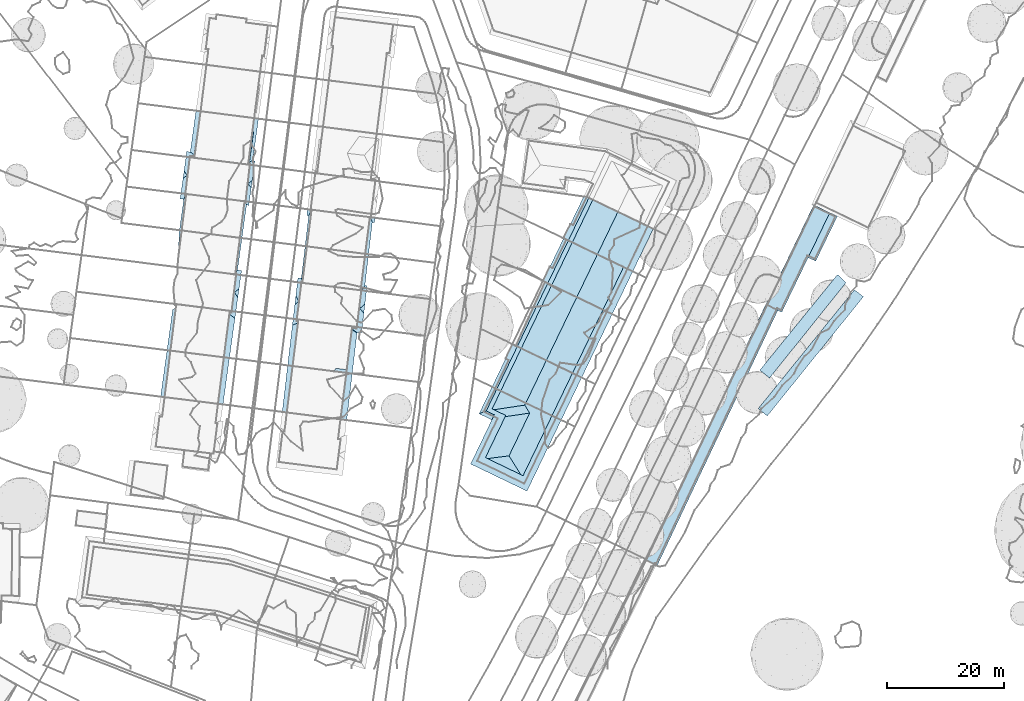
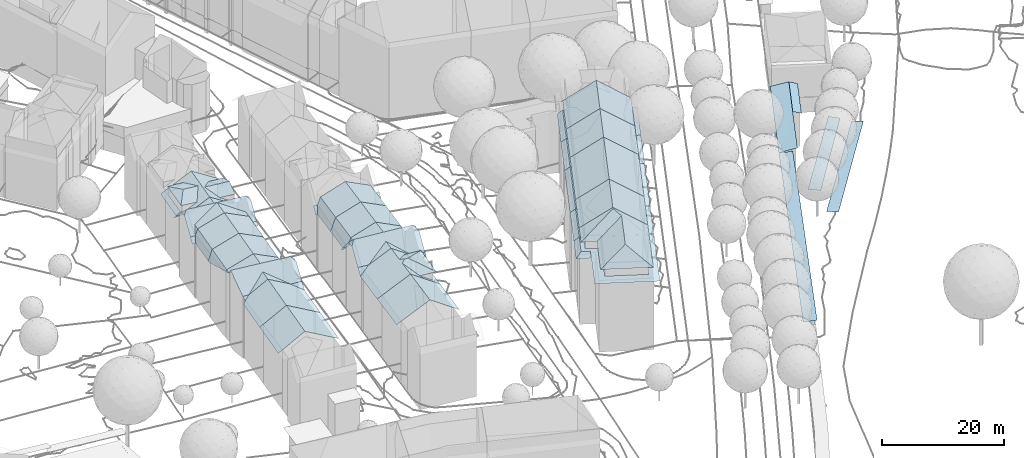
# Not in any storey, part 67 of 494: 31 roofs.
"""IFC2X3 model written with IfcOpenShell, lengths in metres."""

from ifc_helpers import new_model, si_unit, frame, origin_with_axes, place, context, subcontext, project, faceted_brep, element, save


model = new_model("IFC2X3")

# Units and contexts
model_context = context("Model", 3, precision=1e-05, world=origin_with_axes())
body_context = subcontext(model_context, "Body", "Model", "MODEL_VIEW")
ifc_project = project(units=[si_unit("AREAUNIT", "SQUARE_METRE"), si_unit("LENGTHUNIT", "METRE")], contexts=[model_context])

# Roofs
roof_1_placement = place(None, frame((495.5237320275, 54.2186160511, 497.0566), z_axis=(0.0, 0.0, 1.0), x_axis=(1.0, 0.0, 0.0)))
element("IfcRoof", 1, at=roof_1_placement, Name="Roof 0", ShapeType="NOTDEFINED", context=body_context, shape_type="Brep", body=[
    faceted_brep([(1.4809999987, -0.7148999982, 16.1765), (5.0979999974, 6.7939000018, 16.1765), (0.805999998, -0.3886999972, 16.1765), (6.6919999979, 10.1035000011, 16.1765), (6.0159999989, 10.4266999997, 16.1765)], [[[0, 1, 2]], [[1, 3, 4]], [[1, 4, 2]]]),
])
roof_2_placement = place(None, frame((495.5237320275, 54.2186160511, 497.0566), z_axis=(0.0, 0.0, 1.0), x_axis=(1.0, 0.0, 0.0)))
element("IfcRoof", 2, at=roof_2_placement, Name="Roof 1", ShapeType="NOTDEFINED", context=body_context, shape_type="Brep", body=[
    faceted_brep([(0.805999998, -0.3886999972, 16.1765), (1.5599999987, 1.8789000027, 15.9345), (0.5759999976, -0.2784000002, 15.9745), (2.8189999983, 4.638600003, 15.8845), (6.0159999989, 10.4266999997, 16.1765), (5.5590000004, 10.6464000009, 15.7755), (0.5370000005, -0.2588, 15.9395), (2.3440000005, 4.8662, 15.4665), (0.0, 0.0, 15.4665), (5.2080000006, 10.8144000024, 15.4665)], [[[0, 1, 2]], [[1, 0, 3]], [[3, 4, 5]], [[4, 3, 0]], [[2, 1, 6]], [[7, 8, 6]], [[6, 1, 7]], [[3, 5, 9]], [[9, 7, 3]], [[3, 7, 1]]]),
])
roof_3_placement = place(None, frame((495.5237320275, 54.2186160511, 497.0566), z_axis=(0.0, 0.0, 1.0), x_axis=(1.0, 0.0, 0.0)))
element("IfcRoof", 3, at=roof_3_placement, Name="Roof 2", ShapeType="NOTDEFINED", context=body_context, shape_type="Brep", body=[
    faceted_brep([(12.2119999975, -0.8652999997, 16.1765), (10.2449999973, -4.9483000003, 16.1765), (11.8229999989, -5.7099999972, 16.1765), (17.0480000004, 5.1405999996, 16.1765), (15.4690000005, 5.8964000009, 16.1765)], [[[0, 1, 2]], [[3, 4, 0]], [[3, 0, 2]]]),
])
roof_4_placement = place(None, frame((495.5237320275, 54.2186160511, 497.0566), z_axis=(0.0, 0.0, 1.0), x_axis=(1.0, 0.0, 0.0)))
element("IfcRoof", 4, at=roof_4_placement, Name="Roof 3", ShapeType="NOTDEFINED", context=body_context, shape_type="Brep", body=[
    faceted_brep([(10.2449999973, -4.9483000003, 18.5382), (10.9210000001, -5.2744999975, 18.0403), (16.1459999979, 5.5722000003, 18.0403), (5.7670000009, -2.7851999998, 21.8379), (10.9839999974, 8.0459000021, 21.8379), (15.4690000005, 5.8974000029, 18.5382), (1.4809999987, -0.7148999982, 18.5572), (6.6919999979, 10.1025000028, 18.5572), (0.805999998, -0.3886999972, 18.0403), (6.0159999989, 10.4266999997, 18.0403)], [[[0, 1, 2]], [[3, 0, 4]], [[0, 5, 4]], [[5, 0, 2]], [[6, 3, 7]], [[8, 6, 7]], [[7, 9, 8]], [[4, 7, 3]]]),
])
roof_5_placement = place(None, frame((504.2517320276, 72.3416160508, 498.9665), z_axis=(0.0, 0.0, 1.0), x_axis=(1.0, 0.0, 0.0)))
element("IfcRoof", 5, at=roof_5_placement, Name="Roof 0", ShapeType="NOTDEFINED", context=body_context, shape_type="Brep", body=[
    faceted_brep([(0.0, 0.0, 13.5567), (0.8079999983, -0.3866999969, 14.2666), (1.1909999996, 2.4736000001, 13.5567), (3.9849999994, 7.0654000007, 13.9726), (4.0260000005, 7.0596000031, 14.0036), (3.4389999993, 7.1425999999, 13.5567), (4.3259999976, 6.9150000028, 14.2666), (5.0020000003, 6.5898000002, 14.2666), (1.4849999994, -0.7108999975, 14.2666)], [[[0, 1, 2]], [[2, 1, 3]], [[4, 3, 1]], [[5, 2, 3]], [[1, 6, 4]], [[6, 1, 7]], [[7, 1, 8]]]),
])
roof_6_placement = place(None, frame((504.2517320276, 72.3416160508, 498.9665), z_axis=(0.0, 0.0, 1.0), x_axis=(1.0, 0.0, 0.0)))
element("IfcRoof", 6, at=roof_6_placement, Name="Roof 1", ShapeType="NOTDEFINED", context=body_context, shape_type="Brep", body=[
    faceted_brep([(11.3829999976, -4.306599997, 14.2666), (11.8420000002, -5.6699000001, 14.2666), (15.3509999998, 1.6162, 14.2666), (14.4289999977, 2.0596000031, 14.2666), (10.9389999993, -5.2372999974, 14.2666), (12.2359999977, -2.5263999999, 14.2076)], [[[0, 1, 2]], [[0, 2, 3]], [[4, 1, 0]], [[5, 4, 0]]]),
])
roof_7_placement = place(None, frame((504.2517320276, 72.3416160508, 498.9665), z_axis=(0.0, 0.0, 1.0), x_axis=(1.0, 0.0, 0.0)))
element("IfcRoof", 7, at=roof_7_placement, Name="Roof 2", ShapeType="NOTDEFINED", context=body_context, shape_type="Brep", body=[
    faceted_brep([(14.4499999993, 2.0488000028, 16.1304), (14.4289999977, 2.0596000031, 16.1454), (10.9389999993, -5.2372999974, 16.1304), (9.2909999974, 4.5293000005, 19.927), (5.7769999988, -2.7655999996, 19.927), (5.0020000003, 6.5898000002, 16.6474), (4.3259999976, 6.9150000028, 16.1304), (1.4849999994, -0.7108999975, 16.6474), (0.8079999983, -0.3866999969, 16.1304)], [[[0, 1, 2]], [[3, 4, 2]], [[3, 2, 1]], [[5, 6, 7]], [[3, 5, 4]], [[7, 4, 5]], [[8, 7, 6]]]),
])
roof_8_placement = place(None, frame((489.4687320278, 34.2352160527, 498.9664), z_axis=(0.0, 0.0, 1.0), x_axis=(1.0, 0.0, 0.0)))
element("IfcRoof", 8, at=roof_8_placement, Name="Roof 0", ShapeType="NOTDEFINED", context=body_context, shape_type="Brep", body=[
    faceted_brep([(1.1779999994, 8.4442999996, 14.0427), (0.3369999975, 8.1103000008, 13.5567), (2.5169999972, 7.0595000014, 13.5567), (1.5649999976, 8.5986000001, 14.2667), (2.8189999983, 7.6884000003, 14.0667), (2.7929999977, 7.6347000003, 14.0227), (2.9379999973, 7.936499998, 14.2667), (8.5329999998, -5.1308999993, 14.2666), (7.8599999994, -2.4902999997, 14.2666), (1.4230000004, 0.6092999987, 14.2666), (14.3699999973, 6.9891999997, 14.2666), (12.7919999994, 7.7509000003, 14.2666), (-1.1160000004, -0.4834000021, 14.2667), (2.5169999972, 7.0595000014, 14.2667), (4.8990000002, 7.8242000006, 14.2667), (2.5659999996, 8.9481999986, 14.2667), (3.3489999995, 12.3037, 14.2667), (4.0260000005, 11.9774999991, 14.2667), (3.1030000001, 12.4228000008, 14.0497), (2.5439999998, 12.6922999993, 13.5567)], [[[0, 1, 2]], [[3, 0, 4]], [[2, 5, 0]], [[6, 3, 4]], [[4, 0, 5]], [[7, 8, 9]], [[10, 11, 8]], [[10, 8, 7]], [[12, 9, 13]], [[9, 12, 7]], [[13, 9, 14]], [[14, 6, 13]], [[15, 3, 6]], [[15, 16, 3]], [[6, 14, 15]], [[15, 17, 16]], [[18, 0, 16]], [[0, 18, 19]], [[16, 0, 3]], [[0, 19, 1]]]),
])
roof_9_placement = place(None, frame((489.4687320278, 34.2352160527, 498.9664), z_axis=(0.0, 0.0, 1.0), x_axis=(1.0, 0.0, 0.0)))
element("IfcRoof", 9, at=roof_9_placement, Name="Roof 1", ShapeType="NOTDEFINED", context=body_context, shape_type="Brep", body=[
    faceted_brep([(8.9789999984, 8.2215999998, 19.0422), (7.4649999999, -2.3007999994, 16.9194), (12.7919999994, 7.7509000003, 16.6284), (5.4569999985, 0.9081999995, 19.0422), (8.2099999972, -3.4913000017, 16.1305), (8.311999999, 9.9100999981, 19.9281), (8.1579999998, 9.5907999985, 19.9281), (13.4679999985, 7.4248000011, 16.1305), (3.3499999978, 12.3037, 16.1305), (1.5649999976, 8.5986000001, 16.1305), (4.0260000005, 11.9774999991, 16.6484), (2.8809999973, 8.7967999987, 16.8884), (4.7939999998, 7.6063999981, 16.6434), (3.8979999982, 7.4745999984, 16.1305), (1.7850000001, 0.4354999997, 16.9184), (0.4219999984, 0.2597000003, 16.1305)], [[[0, 1, 2]], [[0, 3, 1]], [[1, 4, 2]], [[5, 0, 2]], [[6, 0, 5]], [[2, 4, 7]], [[8, 9, 10]], [[10, 9, 11]], [[11, 5, 10]], [[5, 11, 6]], [[6, 11, 12]], [[6, 12, 0]], [[12, 11, 13]], [[9, 13, 11]], [[14, 3, 13]], [[15, 14, 13]], [[3, 12, 13]], [[12, 3, 0]], [[14, 15, 1]], [[14, 1, 3]], [[1, 15, 4]]]),
])
roof_10_placement = place(None, frame((500.7317320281, 65.0330160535, 498.9665), z_axis=(0.0, 0.0, 1.0), x_axis=(1.0, 0.0, 0.0)))
element("IfcRoof", 10, at=roof_10_placement, Name="Roof 0", ShapeType="NOTDEFINED", context=body_context, shape_type="Brep", body=[
    faceted_brep([(0.0, 0.0, 13.5566), (0.8079999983, -0.3877000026, 14.2666), (1.175999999, 2.441399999, 13.5566), (4.3279999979, 6.9219000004, 14.2666), (4.0119999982, 7.0722999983, 13.9886), (3.5199999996, 7.3085999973, 13.5567), (3.4439999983, 3.3583999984, 14.2666), (1.4839999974, -0.7109000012, 14.2666), (5.004999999, 6.5976999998, 14.2666)], [[[0, 1, 2]], [[2, 1, 3]], [[4, 5, 2]], [[3, 4, 2]], [[3, 1, 6]], [[6, 1, 7]], [[6, 8, 3]]]),
])
roof_11_placement = place(None, frame((500.7317320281, 65.0330160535, 498.9665), z_axis=(0.0, 0.0, 1.0), x_axis=(1.0, 0.0, 0.0)))
element("IfcRoof", 11, at=roof_11_placement, Name="Roof 1", ShapeType="NOTDEFINED", context=body_context, shape_type="Brep", body=[
    faceted_brep([(13.7829999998, 2.3944999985, 14.2666), (11.8399999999, -5.6738000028, 14.2666), (15.3619999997, 1.6386999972, 14.2666), (10.2609999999, -4.9180000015, 14.2666)], [[[0, 1, 2]], [[1, 0, 3]]]),
])
roof_12_placement = place(None, frame((500.7317320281, 65.0330160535, 498.9665), z_axis=(0.0, 0.0, 1.0), x_axis=(1.0, 0.0, 0.0)))
element("IfcRoof", 12, at=roof_12_placement, Name="Roof 2", ShapeType="NOTDEFINED", context=body_context, shape_type="Brep", body=[
    faceted_brep([(9.2969999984, 4.5429999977, 19.927), (5.7759999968, -2.7685000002, 19.928), (10.2609999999, -4.9180000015, 16.6273), (13.7829999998, 2.3944999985, 16.6283), (10.9379999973, -5.2422000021, 16.1304), (14.4599999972, 2.0702999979, 16.1304), (4.3279999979, 6.9219000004, 16.1304), (0.8079999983, -0.3877000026, 16.1304), (1.4839999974, -0.7109000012, 16.6473), (5.004999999, 6.5976999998, 16.6474)], [[[0, 1, 2]], [[3, 2, 4]], [[3, 0, 2]], [[5, 3, 4]], [[6, 7, 8]], [[9, 8, 1]], [[8, 9, 6]], [[9, 1, 0]]]),
])
roof_13_placement = place(None, frame((492.5717320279, 46.6580160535, 498.9665), z_axis=(0.0, 0.0, 1.0), x_axis=(1.0, 0.0, 0.0)))
element("IfcRoof", 13, at=roof_13_placement, Name="Roof 0", ShapeType="NOTDEFINED", context=body_context, shape_type="Brep", body=[
    faceted_brep([(3.7579999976, 7.1719000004, 14.2666), (3.5279999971, 7.2821999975, 14.0646), (0.2469999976, -0.1191000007, 14.2666), (0.1689999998, -0.0820000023, 14.1986), (0.0, 0.0, 14.0496), (-0.5590000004, 0.2694999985, 13.5566), (1.7639999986, 5.0946999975, 13.5566), (2.9519999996, 7.5605999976, 13.5566), (4.4329999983, 6.8456999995, 14.2666), (0.9230000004, -0.4453000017, 14.2666)], [[[0, 1, 2]], [[3, 2, 1]], [[4, 3, 1]], [[5, 4, 6]], [[4, 7, 6]], [[7, 4, 1]], [[8, 0, 2]], [[9, 8, 2]]]),
])
roof_14_placement = place(None, frame((492.5717320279, 46.6580160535, 498.9665), z_axis=(0.0, 0.0, 1.0), x_axis=(1.0, 0.0, 0.0)))
element("IfcRoof", 14, at=roof_14_placement, Name="Roof 1", ShapeType="NOTDEFINED", context=body_context, shape_type="Brep", body=[
    faceted_brep([(9.6889999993, -4.6719000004, 14.2665), (14.7749999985, 1.8506000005, 14.2666), (13.1979999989, 2.6122999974, 14.2666), (11.2669999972, -5.433600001, 14.2665)], [[[0, 1, 2]], [[0, 3, 1]]]),
])
roof_15_placement = place(None, frame((492.5717320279, 46.6580160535, 498.9665), z_axis=(0.0, 0.0, 1.0), x_axis=(1.0, 0.0, 0.0)))
element("IfcRoof", 15, at=roof_15_placement, Name="Roof 2", ShapeType="NOTDEFINED", context=body_context, shape_type="Brep", body=[
    faceted_brep([(13.1979999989, 2.6122999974, 16.6283), (9.6889999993, -4.6719000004, 16.6283), (13.8729999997, 2.2861000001, 16.1304), (5.2089999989, -2.5127000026, 19.928), (8.7190000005, 4.7753999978, 19.928), (10.3649999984, -4.9979999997, 16.1304), (4.4329999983, 6.8456999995, 16.6473), (0.9230000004, -0.4453000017, 16.6473), (0.2469999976, -0.1191000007, 16.1304), (3.7579999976, 7.1719000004, 16.1304)], [[[0, 1, 2]], [[3, 0, 4]], [[1, 5, 2]], [[3, 1, 0]], [[6, 7, 4]], [[8, 6, 9]], [[7, 3, 4]], [[8, 7, 6]]]),
])
roof_16_placement = place(None, frame((211.8297320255, 101.9383160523, 526.7541), z_axis=(0.0, 0.0, 1.0), x_axis=(1.0, 0.0, 0.0)))
element("IfcRoof", 16, at=roof_16_placement, Name="Roof 62", ShapeType="NOTDEFINED", context=body_context, shape_type="Brep", body=[
    faceted_brep([(325.7380000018, -58.7030999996, -22.0753), (327.2760000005, -59.9833999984, -21.9033), (342.2039999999, -38.3740000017, -22.0733), (343.7420000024, -39.5694000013, -21.9053)], [[[0, 1, 2]], [[3, 2, 1]]]),
])
roof_17_placement = place(None, frame((211.8297320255, 101.9383160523, 526.7541), z_axis=(0.0, 0.0, 1.0), x_axis=(1.0, 0.0, 0.0)))
element("IfcRoof", 17, at=roof_17_placement, Name="Roof 63", ShapeType="NOTDEFINED", context=body_context, shape_type="Brep", body=[
    faceted_brep([(340.7730000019, -37.1563000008, -21.7343), (339.3080000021, -35.7685999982, -21.7343), (326.012000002, -52.1376999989, -21.7343), (327.6770000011, -53.4814999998, -21.7343)], [[[0, 1, 2]], [[2, 3, 0]]]),
])
roof_18_placement = place(None, frame((211.8297320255, 101.9383160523, 526.7541), z_axis=(0.0, 0.0, 1.0), x_axis=(1.0, 0.0, 0.0)))
element("IfcRoof", 18, at=roof_18_placement, Name="Roof 65", ShapeType="NOTDEFINED", context=body_context, shape_type="Brep", body=[
    faceted_brep([(337.9959999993, -25.1651000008, -20.7984), (335.2440000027, -23.8379000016, -21.5603), (335.1650000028, -24.5771999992, -21.4983), (334.3120000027, -32.5938000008, -20.8204), (334.2840000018, -32.8574000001, -20.7984), (334.393000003, -32.6328000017, -20.7984), (327.6119999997, -40.2362999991, -21.5403), (333.6909999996, -33.5137000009, -20.8644), (327.0170000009, -40.8944999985, -21.6063), (335.574000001, -33.4794999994, -21.2213), (339.2840000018, -25.7861000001, -21.2213), (329.7690000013, -42.2226999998, -20.7984), (332.5610000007, -35.8555000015, -20.8604), (329.0910000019, -41.8964999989, -20.9864), (327.2420000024, -41.003899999, -21.5393), (308.4730000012, -85.5243999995, -21.3993), (329.0910000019, -41.8964999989, -21.3993), (310.5970000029, -80.4120999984, -21.4233), (328.0210000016, -41.379900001, -21.5063), (324.995000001, -45.7617000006, -21.5833), (328.8660000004, -41.7870999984, -21.4213), (327.2420000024, -41.003899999, -21.5843), (308.262000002, -85.4862999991, -21.4213), (308.0360000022, -85.378899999, -21.4493), (306.381000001, -84.5868999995, -21.6513), (327.4970000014, -41.1270000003, -21.6663), (328.5730000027, -41.6455000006, -21.6293), (328.8660000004, -41.7870999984, -21.6213)], [[[0, 1, 2]], [[3, 4, 5]], [[0, 2, 5]], [[5, 2, 3]], [[2, 1, 6]], [[3, 2, 7]], [[8, 6, 1]], [[4, 3, 7]], [[7, 2, 6]], [[4, 9, 5]], [[5, 9, 0]], [[10, 0, 9]], [[11, 12, 13]], [[12, 11, 4]], [[4, 7, 12]], [[12, 7, 6]], [[6, 8, 14]], [[13, 12, 14]], [[12, 6, 14]], [[15, 16, 17]], [[18, 19, 17]], [[17, 16, 20]], [[18, 21, 19]], [[21, 8, 19]], [[18, 17, 20]], [[15, 17, 22]], [[22, 17, 23]], [[19, 8, 24]], [[24, 23, 19]], [[19, 23, 17]], [[25, 26, 27]]]),
])
roof_19_placement = place(None, frame((437.0167320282, 53.1053160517, 499.5705), z_axis=(0.0, 0.0, 1.0), x_axis=(1.0, 0.0, 0.0)))
element("IfcRoof", 19, at=roof_19_placement, Name="Roof 0", ShapeType="NOTDEFINED", context=body_context, shape_type="Brep", body=[
    faceted_brep([(10.0839999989, 6.2567999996, 11.9418), (9.1739999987, 6.9345000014, 12.4527), (9.1429999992, -1.1475000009, 11.8998), (4.0639999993, -0.5097999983, 14.5295), (5.1639999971, 7.4354999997, 14.5296), (11.0089999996, 5.566399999, 11.4228), (10.0629999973, -1.2626999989, 11.4228), (4.6549999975, 7.4990000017, 14.1926), (1.7649999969, -0.2216999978, 13.0037), (10.4709999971, 6.7723999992, 12.4687), (11.1639999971, 6.6854999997, 12.4777), (0.0, 0.0, 11.8448), (-0.3780000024, 0.0478000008, 11.5968), (1.8079999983, 7.8553999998, 12.3228), (0.8019999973, 7.3515000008, 11.7168), (-0.6170000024, 0.0771000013, 11.4228), (0.3469999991, 7.0428999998, 11.4229), (0.7619999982, 7.7928999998, 12.1258), (0.743999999, 7.9882999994, 12.3058), (1.7649999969, -0.2216999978, 12.8037), (0.9560000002, -0.1191999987, 12.3478)], [[[0, 1, 2]], [[3, 1, 4]], [[2, 5, 0]], [[6, 5, 2]], [[2, 1, 3]], [[4, 7, 8]], [[8, 3, 4]], [[0, 5, 9]], [[0, 9, 1]], [[9, 5, 10]], [[11, 8, 7]], [[12, 11, 13]], [[13, 14, 12]], [[11, 7, 13]], [[15, 12, 14]], [[14, 16, 15]], [[17, 13, 18]], [[13, 17, 14]], [[19, 11, 20]]]),
])
roof_20_placement = place(None, frame((439.5667320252, 79.9246160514, 499.5705), z_axis=(0.0, 0.0, 1.0), x_axis=(1.0, 0.0, 0.0)))
element("IfcRoof", 20, at=roof_20_placement, Name="Roof 0", ShapeType="NOTDEFINED", context=body_context, shape_type="Brep", body=[
    faceted_brep([(5.7740000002, 3.4365000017, 14.5366), (9.949000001, 5.1162, 12.2668), (6.074000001, 5.6016000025, 14.5366), (2.3210000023, 6.0713, 12.3688), (9.5560000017, -1.1875, 13.5987), (9.7310000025, 0.0752000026, 13.5987), (5.6410000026, 2.4824000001, 15.5125), (5.2080000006, -0.6464999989, 15.5125), (0.7019999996, 1.2050999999, 13.5987), (0.5260000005, -0.0643999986, 13.5987), (-0.7819999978, 0.0967000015, 12.3158), (0.0, 0.0, 12.3268), (-0.4230000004, 2.6963, 14.9015), (0.1130000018, -0.0136999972, 12.3288), (0.262000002, 3.2276000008, 15.5125), (10.7010000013, 1.7822000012, 15.5135), (-0.2449999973, 3.9697000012, 14.8376), (0.0850000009, 6.3516000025, 12.3968), (11.4240000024, 2.3544999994, 14.8375), (11.0370000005, 4.9805000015, 12.2518), (11.7750000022, 4.8867000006, 12.2428), (10.2280000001, -1.2714999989, 12.2698), (11.2470000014, 1.0800999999, 14.8615), (10.9090000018, -1.3563999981, 12.2788), (10.3030000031, -1.2811999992, 12.2708)], [[[0, 1, 2]], [[3, 0, 2]], [[4, 5, 6]], [[6, 7, 4]], [[7, 6, 8]], [[8, 9, 7]], [[8, 10, 11]], [[8, 12, 10]], [[11, 13, 8]], [[6, 14, 12]], [[12, 8, 6]], [[15, 0, 6]], [[0, 14, 6]], [[0, 16, 14]], [[16, 3, 17]], [[16, 0, 3]], [[0, 18, 1]], [[18, 0, 15]], [[1, 18, 19]], [[19, 18, 20]], [[21, 5, 4]], [[6, 5, 15]], [[15, 5, 22]], [[23, 5, 24]], [[22, 5, 23]], [[24, 5, 21]], [[22, 18, 15]], [[8, 13, 9]], [[16, 12, 14]]]),
])
roof_21_placement = place(None, frame((440.3257320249, 86.1922160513, 499.5705), z_axis=(0.0, 0.0, 1.0), x_axis=(1.0, 0.0, 0.0)))
element("IfcRoof", 21, at=roof_21_placement, Name="Roof 0", ShapeType="NOTDEFINED", context=body_context, shape_type="Brep", body=[
    faceted_brep([(6.4160000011, 7.2919999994, 14.5366), (6.1760000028, 2.5243999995, 14.2946), (8.2420000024, 4.8280999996, 13.2887), (5.3150000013, -0.6659999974, 14.5366), (11.0130000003, 6.7030999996, 11.8428), (11.7290000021, 6.6113000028, 11.4229), (10.7250000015, 4.4932000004, 11.8318), (8.5830000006, 4.7822000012, 13.0887), (10.7410000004, -0.5273999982, 11.4229), (9.1900000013, -1.1513999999, 12.2668), (7.9030000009, -0.1347999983, 13.0887), (7.5610000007, -0.0878999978, 13.2887), (10.0840000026, -0.4355999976, 11.8088), (1.5620000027, -0.1963, 12.3688), (3.5700000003, 0.4648000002, 13.4567), (5.450000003, 3.3877000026, 14.2946), (3.2230000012, 0.5127000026, 13.2567), (0.8420000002, 0.3535000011, 11.9158), (0.9070000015, 0.8340000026, 11.9158), (0.0560000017, 0.9521000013, 11.4229), (1.7050000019, 6.7637000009, 11.9018), (4.3950000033, 6.4238000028, 13.4567), (4.0490000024, 6.4678000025, 13.2567), (1.0300000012, 7.9814000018, 11.4229), (2.8220000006, 3.7217000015, 14.2946), (1.7050000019, 6.7637000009, 13.4567), (1.5830000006, 6.7783000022, 13.4567), (0.9420000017, 1.1035000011, 13.5297), (0.7630000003, 0.8535000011, 13.4567), (10.5560000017, 1.9345999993, 14.2946), (10.7250000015, 4.4932000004, 13.2887), (10.9070000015, 4.4697000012, 13.2887), (0.9060000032, 0.8340000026, 13.4567), (10.0840000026, -0.4355999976, 13.2887), (10.2250000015, -0.4550999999, 13.2887), (11.0160000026, -1.3808999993, 12.2418), (11.1270000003, -0.5800999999, 11.4229), (0.0, 0.0, 12.3878), (-0.6739999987, 0.0840000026, 12.3968), (-0.5429999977, 1.0331999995, 11.4229)], [[[0, 1, 2]], [[1, 0, 3]], [[0, 2, 4]], [[5, 4, 6]], [[7, 6, 4]], [[4, 2, 7]], [[5, 6, 8]], [[9, 10, 11]], [[3, 11, 1]], [[9, 11, 3]], [[12, 8, 6]], [[9, 8, 12]], [[12, 10, 9]], [[13, 3, 14]], [[14, 3, 15]], [[13, 14, 16]], [[17, 13, 18]], [[18, 19, 17]], [[20, 19, 18]], [[13, 16, 18]], [[15, 0, 21]], [[0, 15, 3]], [[21, 0, 22]], [[20, 22, 23]], [[22, 0, 23]], [[20, 23, 19]], [[15, 21, 24]], [[24, 21, 25]], [[25, 26, 24]], [[27, 24, 26]], [[28, 27, 26]], [[2, 29, 30]], [[29, 2, 1]], [[29, 31, 30]], [[14, 15, 27]], [[27, 15, 24]], [[27, 28, 32]], [[27, 32, 14]], [[29, 1, 33]], [[33, 1, 11]], [[34, 29, 33]], [[9, 35, 8]], [[36, 8, 35]], [[37, 13, 17]], [[38, 37, 39]], [[17, 19, 39]], [[17, 39, 37]]]),
])
roof_22_placement = place(None, frame((438.9377320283, 73.6600160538, 499.5705), z_axis=(0.0, 0.0, 1.0), x_axis=(1.0, 0.0, 0.0)))
element("IfcRoof", 22, at=roof_22_placement, Name="Roof 0", ShapeType="NOTDEFINED", context=body_context, shape_type="Brep", body=[
    faceted_brep([(4.9719999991, -0.6270000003, 15.5125), (9.3189999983, -1.1739000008, 13.5977), (5.8369999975, 5.6180999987, 15.5125), (10.1849999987, 5.0770999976, 13.5987), (0.2919999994, -0.0381000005, 13.5987), (1.1549999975, 6.2001999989, 13.5987), (0.6289999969, 6.2645999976, 12.3268), (-0.1530000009, 6.3612999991, 12.3158), (0.6269999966, 6.0126999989, 12.0808), (0.7419999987, 6.2509000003, 12.3288), (0.3209999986, 5.3807999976, 11.4229), (-0.2770000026, 5.4637999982, 11.4229), (0.0, 0.0, 12.7017), (-0.4160000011, 0.0516999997, 11.4229), (10.9149999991, 4.8348999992, 12.1148), (11.0749999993, 4.4003999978, 11.6868), (11.5379999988, 4.9081999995, 12.2788), (11.4609999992, 4.3486000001, 11.6868), (10.932, 4.9833999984, 12.2708), (10.856999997, 4.9930999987, 12.2698), (9.9670000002, -1.255900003, 12.3178), (10.2859999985, -1.2959000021, 11.6868)], [[[0, 1, 2]], [[3, 2, 1]], [[4, 0, 5]], [[2, 5, 0]], [[6, 7, 8]], [[9, 6, 8]], [[7, 10, 8]], [[10, 7, 11]], [[12, 4, 5]], [[13, 12, 8]], [[9, 8, 12]], [[10, 13, 8]], [[12, 5, 9]], [[14, 15, 16]], [[16, 15, 17]], [[14, 18, 19]], [[18, 14, 16]], [[14, 19, 20]], [[20, 19, 3]], [[20, 15, 14]], [[21, 15, 20]], [[20, 3, 1]]]),
])
roof_23_placement = place(None, frame((438.2527320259, 67.3914160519, 499.5705), z_axis=(0.0, 0.0, 1.0), x_axis=(1.0, 0.0, 0.0)))
element("IfcRoof", 23, at=roof_23_placement, Name="Roof 0", ShapeType="NOTDEFINED", context=body_context, shape_type="Brep", body=[
    faceted_brep([(5.6570000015, 5.6416000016, 15.5125), (0.9770000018, 6.2305000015, 13.5987), (4.7919999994, -0.6024999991, 15.5125), (0.1119999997, -0.0137000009, 13.5987), (10.0040000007, 5.0947000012, 13.5977), (9.1400000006, -1.1493999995, 13.5976), (10.0040000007, -1.2588, 12.4997), (10.7930000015, -1.3574000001, 12.4907), (9.8940000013, -0.9296999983, 12.1918), (9.693, -1.2197000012, 12.5037), (10.9039999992, -0.552699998, 11.6868), (10.2190000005, -0.4600000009, 11.6868), (0.0410000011, 1.1455000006, 12.8987), (0.0, 0.0, 13.2537), (0.6850000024, 6.2686000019, 12.7017), (0.2109999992, 5.8993999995, 11.4229), (0.2690000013, 6.3203000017, 11.4229), (10.6520000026, 5.0126999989, 12.3178), (10.9710000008, 4.9726999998, 11.6868)], [[[0, 1, 2]], [[3, 2, 1]], [[4, 0, 5]], [[2, 5, 0]], [[6, 7, 8]], [[9, 6, 8]], [[8, 10, 11]], [[10, 8, 7]], [[12, 13, 1]], [[1, 13, 3]], [[14, 15, 12]], [[16, 15, 14]], [[14, 12, 1]], [[17, 4, 9]], [[18, 17, 11]], [[9, 8, 17]], [[11, 17, 8]], [[4, 5, 9]]]),
])
roof_24_placement = place(None, frame((437.5277320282, 63.6443160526, 499.5705), z_axis=(0.0, 0.0, 1.0), x_axis=(1.0, 0.0, 0.0)))
element("IfcRoof", 24, at=roof_24_placement, Name="Roof 0", ShapeType="NOTDEFINED", context=body_context, shape_type="Brep", body=[
    faceted_brep([(10.6529999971, -3.8535000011, 12.4777), (10.9899999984, -1.4101000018, 14.7795), (9.9599999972, -3.7666000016, 12.4687), (8.6629999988, -3.6044999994, 12.4527), (10.4149999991, -0.5390000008, 15.5125), (4.9649999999, -0.8476000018, 14.5296), (-0.0840000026, 0.9151000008, 15.5135), (5.1089999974, 0.1953000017, 15.5125), (4.6529999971, -3.1035000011, 14.5296), (9.7139999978, 1.5108000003, 13.5976), (11.1989999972, 0.0870000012, 14.7915), (10.7289999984, 2.4882999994, 12.4997), (10.4179999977, 2.5273999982, 12.5037), (11.5179999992, 2.3896999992, 12.4907), (1.2969999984, -2.683600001, 12.3228), (4.1439999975, -3.0399999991, 14.1926), (0.0, 0.0, 14.6665), (0.2329999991, -2.5507000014, 12.3058), (5.5169999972, 3.1446000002, 15.5125), (9.8649999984, 2.5976999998, 13.5976), (0.8369999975, 3.7333999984, 13.5987), (0.6849999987, 2.6347999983, 13.5987), (0.1939999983, 1.5361999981, 14.8215), (0.7249999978, 3.7470999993, 13.2537)], [[[0, 1, 2]], [[3, 2, 1]], [[1, 4, 5]], [[3, 1, 5]], [[6, 5, 7]], [[5, 4, 7]], [[3, 5, 8]], [[9, 7, 10]], [[11, 12, 9]], [[9, 13, 11]], [[13, 9, 10]], [[10, 7, 4]], [[5, 14, 15]], [[5, 15, 8]], [[14, 16, 17]], [[16, 14, 5]], [[6, 16, 5]], [[18, 7, 9]], [[9, 19, 18]], [[20, 21, 7]], [[7, 18, 20]], [[1, 10, 4]], [[9, 12, 19]], [[6, 7, 22]], [[21, 22, 7]], [[23, 21, 20]]]),
])
roof_25_placement = place(None, frame((436.0157320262, 45.1434160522, 499.5705), z_axis=(0.0, 0.0, 1.0), x_axis=(1.0, 0.0, 0.0)))
element("IfcRoof", 25, at=roof_25_placement, Name="Roof 0", ShapeType="NOTDEFINED", context=body_context, shape_type="Brep", body=[
    faceted_brep([(10.1440000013, 6.8143999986, 11.8998), (5.0650000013, 7.4510999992, 14.5295), (9.1330000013, -1.1387000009, 11.8538), (11.0639999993, 6.6992000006, 11.4228), (9.9640000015, -1.2421999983, 11.4228), (3.9649999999, -0.4941999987, 14.5295), (0.0670000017, 0.5331999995, 11.8938), (-0.1259999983, 0.0166000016, 11.8148), (0.0, 0.0, 11.8988), (2.7659999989, 7.7402000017, 13.0037), (1.001000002, 7.9618999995, 11.8448), (-0.6569999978, 0.0830000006, 11.4658), (0.6229999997, 8.0097000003, 11.5968), (-0.7170000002, 0.0907999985, 11.4228), (0.3839999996, 8.0390000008, 11.4228)], [[[0, 1, 2]], [[3, 0, 4]], [[2, 4, 0]], [[5, 2, 1]], [[6, 7, 8]], [[6, 8, 5]], [[5, 9, 6]], [[9, 5, 1]], [[6, 9, 10]], [[11, 10, 12]], [[10, 7, 6]], [[7, 10, 11]], [[13, 11, 12]], [[12, 14, 13]]]),
])
roof_26_placement = place(None, frame((460.3767320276, 70.9432160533, 499.4055), z_axis=(0.0, 0.0, 1.0), x_axis=(1.0, 0.0, 0.0)))
element("IfcRoof", 26, at=roof_26_placement, Name="Roof 0", ShapeType="NOTDEFINED", context=body_context, shape_type="Brep", body=[
    faceted_brep([(4.932, -0.6358000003, 16.0924), (9.3729999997, -1.2061000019, 14.1246), (10.112999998, 5.0868999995, 14.1246), (5.6710000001, 5.6532999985, 16.0924), (0.5439999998, -0.0703000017, 14.2016), (1.2829999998, 6.2137999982, 14.2016), (0.0, 0.0, 12.6107), (0.2639999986, 5.2870999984, 11.5829), (-0.3520000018, 0.0449000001, 11.5828), (0.7709999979, 6.2782999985, 12.7047), (0.6490000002, 6.0419999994, 12.4368), (0.6359999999, 6.2967999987, 12.7067), (0.0539999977, 6.370099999, 12.7127), (-0.069000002, 5.3270999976, 11.5829), (11.5319999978, 4.128899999, 11.5828), (10.9010000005, 4.8827999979, 12.3378), (11.1609999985, 4.1728000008, 11.5828), (11.6219999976, 4.8944999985, 12.4458), (10.9140000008, 4.9842999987, 12.4538), (10.8609999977, 4.9912, 12.4538), (9.9679999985, -1.2831999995, 12.7957), (10.5109999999, -1.3535999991, 11.5828)], [[[0, 1, 2]], [[2, 3, 0]], [[4, 0, 3]], [[3, 5, 4]], [[6, 4, 7]], [[8, 6, 7]], [[5, 9, 10]], [[10, 7, 5]], [[5, 7, 4]], [[11, 10, 9]], [[10, 11, 12]], [[10, 13, 7]], [[13, 10, 12]], [[14, 15, 16]], [[15, 14, 17]], [[18, 19, 15]], [[18, 15, 17]], [[19, 20, 15]], [[20, 19, 2]], [[20, 16, 15]], [[21, 16, 20]], [[20, 2, 1]]]),
])
roof_27_placement = place(None, frame((456.9307320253, 42.5213160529, 499.4054), z_axis=(0.0, 0.0, 1.0), x_axis=(1.0, 0.0, 0.0)))
element("IfcRoof", 27, at=roof_27_placement, Name="Roof 0", ShapeType="NOTDEFINED", context=body_context, shape_type="Brep", body=[
    faceted_brep([(0.9930000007, 7.9501999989, 12.0879), (0.0, 0.0, 12.0539), (5.9710000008, 7.316399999, 14.9436), (-0.8219999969, 0.1044999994, 11.5829), (0.1130000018, 8.0625, 11.5829), (5.0370000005, -0.6396999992, 14.9436), (11.1590000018, 6.6552999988, 11.5829), (10.9629999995, 6.6807000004, 11.6909), (10.2240000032, -1.2998000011, 11.5829), (10.1760000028, -1.2939999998, 11.6089), (8.807, -1.1182000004, 12.5078), (9.1860000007, -1.1669999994, 12.2588), (8.0789999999, 7.0487999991, 13.5817), (10.1860000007, 6.7793000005, 12.2009)], [[[0, 1, 2]], [[3, 0, 4]], [[1, 5, 2]], [[3, 1, 0]], [[6, 7, 8]], [[9, 8, 7]], [[10, 11, 12]], [[10, 2, 5]], [[2, 10, 12]], [[7, 13, 11]], [[11, 9, 7]], [[11, 13, 12]]]),
])
roof_28_placement = place(None, frame((457.923732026, 50.4715160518, 499.4055), z_axis=(0.0, 0.0, 1.0), x_axis=(1.0, 0.0, 0.0)))
element("IfcRoof", 28, at=roof_28_placement, Name="Roof 0", ShapeType="NOTDEFINED", context=body_context, shape_type="Brep", body=[
    faceted_brep([(10.993999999, 5.7479999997, 11.5828), (10.6740000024, 5.8720999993, 11.7648), (10.1660000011, -1.2949000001, 11.5828), (9.9699999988, -1.2694999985, 11.6908), (10.1339999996, 6.2998000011, 12.1458), (9.9790000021, 5.9354999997, 12.2188), (10.0870000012, 5.9248000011, 12.1488), (9.2679999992, -0.5762000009, 12.1958), (7.3210000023, -0.3466999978, 13.4706), (7.0859999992, -0.9013999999, 13.5816), (9.193, -1.1699000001, 12.2008)], [[[0, 1, 2]], [[3, 2, 1]], [[4, 5, 6]], [[6, 1, 4]], [[1, 6, 7]], [[7, 8, 9]], [[7, 10, 3]], [[10, 7, 9]], [[7, 3, 1]]]),
])
roof_29_placement = place(None, frame((457.923732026, 50.4715160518, 499.4055), z_axis=(0.0, 0.0, 1.0), x_axis=(1.0, 0.0, 0.0)))
element("IfcRoof", 29, at=roof_29_placement, Name="Roof 1", ShapeType="NOTDEFINED", context=body_context, shape_type="Brep", body=[
    faceted_brep([(5.5080000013, 3.879900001, 14.9435), (5.370000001, 2.7148000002, 14.9435), (6.0969999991, 3.2529000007, 15.2145), (9.2679999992, -0.5762000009, 13.7096), (9.8579999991, -0.6455000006, 13.7096), (6.9499999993, -0.302699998, 13.7096), (6.7349999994, 3.1777000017, 15.2145), (10.6740000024, 5.8720999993, 13.7486), (7.6480000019, 6.1435000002, 13.7486), (10.0870000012, 5.9248000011, 13.7486), (4.9780000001, -0.6338, 14.9435), (0.0, 0.0, 12.0878), (-0.0649999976, 7.0478000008, 11.5828), (-0.879999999, 0.1123000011, 11.5828), (1.9719999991, 7.8330000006, 12.6817), (5.9140000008, 7.3291000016, 14.9435), (0.9270000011, 7.4307000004, 12.1178), (10.6740000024, 5.8720999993, 11.7648), (10.1460000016, 6.3973999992, 12.1728), (10.1339999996, 6.2998000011, 12.1458), (10.993999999, 5.7479999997, 11.5828), (9.5350000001, 6.8662, 12.5977), (9.3990000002, 6.8828000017, 12.6627), (9.1400000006, 6.009800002, 12.7657), (9.9790000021, 5.9354999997, 12.2188), (7.9409999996, 6.1172000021, 13.5486), (6.3570000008, 7.2723999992, 14.6575), (7.0859999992, -0.9013999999, 13.5816), (7.3210000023, -0.3466999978, 13.4706), (7.2530000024, -0.3388999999, 13.5096), (7.0329999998, -0.3125, 13.6596), (0.7149999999, 7.9941000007, 12.6957), (0.0560000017, 8.0780999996, 12.7037), (11.7589999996, 5.6581999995, 11.5828), (11.8660000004, 6.567400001, 12.5717), (10.9869999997, 6.6797000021, 12.5817)], [[[0, 1, 2]], [[3, 4, 2]], [[1, 3, 2]], [[5, 3, 1]], [[2, 4, 6]], [[4, 7, 6]], [[8, 6, 9]], [[7, 9, 6]], [[10, 1, 11]], [[12, 13, 11]], [[11, 1, 14]], [[0, 15, 14]], [[12, 11, 16]], [[16, 11, 14]], [[1, 0, 14]], [[17, 18, 19]], [[18, 17, 20]], [[18, 21, 22]], [[18, 22, 19]], [[2, 6, 0]], [[8, 0, 6]], [[23, 24, 22]], [[24, 19, 22]], [[25, 22, 26]], [[22, 25, 23]], [[26, 15, 0]], [[26, 8, 25]], [[26, 0, 8]], [[27, 28, 29]], [[27, 29, 30]], [[5, 10, 27]], [[1, 10, 5]], [[5, 27, 30]], [[31, 32, 16]], [[31, 16, 14]], [[16, 32, 12]], [[20, 33, 18]], [[18, 33, 34]], [[35, 21, 18]], [[35, 18, 34]]]),
])
roof_30_placement = place(None, frame((458.6387320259, 58.4656160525, 499.4055), z_axis=(0.0, 0.0, 1.0), x_axis=(1.0, 0.0, 0.0)))
element("IfcRoof", 30, at=roof_30_placement, Name="Roof 0", ShapeType="NOTDEFINED", context=body_context, shape_type="Brep", body=[
    faceted_brep([(5.9360000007, 5.5986999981, 16.0924), (5.5730000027, 2.5097999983, 16.0924), (10.3780000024, 5.0342000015, 14.1246), (10.2230000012, 3.7157999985, 14.1246), (1.5480000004, 6.1581999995, 14.2016), (1.375, 4.6865000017, 14.2016), (5.4480000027, 1.4541000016, 14.9435), (1.2569999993, -0.1611000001, 12.6817), (5.199000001, -0.6649999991, 14.9435), (5.6420000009, -0.7217000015, 14.6575), (8.6840000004, -1.1112999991, 12.6627), (8.8200000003, -1.1279000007, 12.5977), (11.0549999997, 4.9483000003, 12.6317), (11.629999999, 2.6493999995, 15.1385), (11.8880000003, 4.8418000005, 12.6407), (10.7650000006, 1.9004000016, 16.0924), (11.4450000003, 1.0762000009, 15.2935), (0.9719999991, 6.2314999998, 12.5187), (0.0769999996, 6.3447999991, 12.5098), (-0.193, 4.0381000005, 15.1385), (0.2820000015, 3.1328000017, 16.0924), (0.7910000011, 6.253899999, 12.5167), (-0.3779999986, 2.4648999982, 15.2935), (11.1510000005, -1.4266999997, 12.5717), (10.2719999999, -1.3134999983, 12.5817), (0.0, 0.0, 12.6957), (-0.6589999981, 0.0839999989, 12.7037)], [[[0, 1, 2]], [[3, 2, 1]], [[4, 5, 1]], [[1, 0, 4]], [[6, 7, 8]], [[9, 6, 8]], [[10, 6, 9]], [[11, 6, 10]], [[3, 12, 2]], [[13, 14, 3]], [[3, 14, 12]], [[3, 1, 15]], [[15, 13, 3]], [[16, 13, 15]], [[17, 5, 4]], [[5, 18, 19]], [[19, 20, 5]], [[1, 5, 20]], [[17, 21, 5]], [[5, 21, 18]], [[19, 22, 20]], [[6, 16, 15]], [[23, 16, 24]], [[11, 24, 16]], [[11, 16, 6]], [[6, 15, 1]], [[20, 22, 6]], [[6, 22, 7]], [[7, 22, 25]], [[22, 26, 25]], [[20, 6, 1]]]),
])
roof_31_placement = place(None, frame((459.429732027, 64.7195160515, 499.4055), z_axis=(0.0, 0.0, 1.0), x_axis=(1.0, 0.0, 0.0)))
element("IfcRoof", 31, at=roof_31_placement, Name="Roof 0", ShapeType="NOTDEFINED", context=body_context, shape_type="Brep", body=[
    faceted_brep([(10.3200000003, 5.0175999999, 14.1246), (5.8790000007, 5.5879000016, 16.0924), (5.1449999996, -0.6552000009, 16.0924), (9.5870000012, -1.2196999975, 14.1246), (1.4910000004, 6.1534000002, 14.2016), (0.7569999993, -0.0956999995, 14.2016), (-0.0430000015, 0.8359999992, 11.5828), (0.0, 0.0, 12.5167), (0.180999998, -0.0223999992, 12.5187), (-0.7140000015, 0.0909000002, 12.5098), (-0.618999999, 0.9053000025, 11.5828), (0.9470000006, 6.2237000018, 12.6107), (0.5949999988, 6.2686000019, 11.5828), (10.9149999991, 4.9405000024, 12.7957), (11.4580000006, 4.8702000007, 11.5828), (10.8339999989, -0.4384000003, 11.5828), (10.256000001, -1.3046999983, 12.6317), (11.2060000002, -0.4824000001, 11.5828), (11.0969999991, -1.4120999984, 12.6407)], [[[0, 1, 2]], [[2, 3, 0]], [[1, 4, 5]], [[5, 2, 1]], [[6, 7, 8]], [[9, 6, 10]], [[9, 7, 6]], [[11, 8, 5]], [[11, 6, 8]], [[12, 6, 11]], [[11, 5, 4]], [[13, 0, 3]], [[14, 13, 15]], [[13, 16, 15]], [[16, 13, 3]], [[17, 15, 16]], [[16, 18, 17]]]),
])

save(model, "model.ifc")
